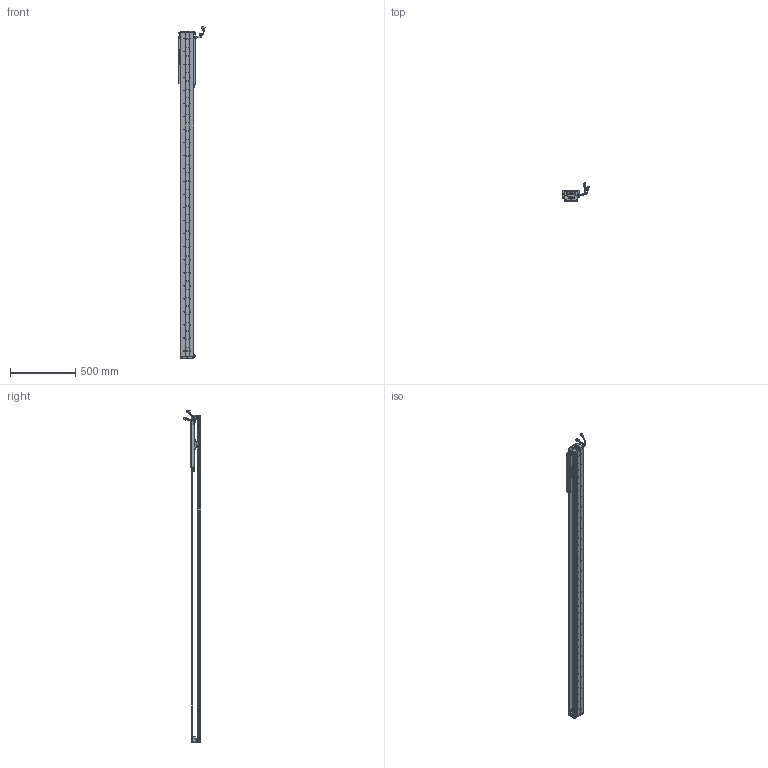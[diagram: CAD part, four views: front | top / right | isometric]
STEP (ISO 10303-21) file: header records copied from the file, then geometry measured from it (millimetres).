
FILE_DESCRIPTION (( 'STEP AP203' ), '1' );
FILE_NAME ('Z5-RY100D-1-L500-B-K.SLDASM_2050.step', '2021-05-17T03:34:26', ( '盈信电脑' ), ( '东莞市道滘镇水果街19号' ), 'SwSTEP 2.0', 'SolidWorks 2016', '' );
FILE_SCHEMA (( 'CONFIG_CONTROL_DESIGN' ));
Length unit declared in the file: millimetre
Products named in the file (36): 140蚥薯蝶輸; 100-Z-臏賑輸盄裔(21遴); LABEL-Part-1; LABEL; Z5-RY100-L500詩湍90mm遵_2050; HARNESS-Part-1; PBU_SHEET; SCALE; SCREW-M1.6-1; SCALE-Part-1; SHIELDPLATE; HOLDER0; 140雄赽晤鎢ん堤盄; Z5-RY100铝滑块（21款）; SEAL; 覜茼ん672; 榋妏寠巭燃_暯_M2_2; SCREW-M1.7; SCREW-M1.6; SCREW-M1.6-2; Z-RY100D詩湍狟揤裔; COVER-Part-1; HARNESS; Z-100詩湍傷裔啣; 080黍杅芛假蚾釱21遴; PSLH080_PSLF2; SEAL-Part-1; Z5-RY100D-500-倰第菁釱_2050; Z-RY100D覜茼んえ; Z5-RY100D-1-L500-B-K.SLDASM_2050; COVER; Z-RY100D詩湍奻揤裔; HARNESS-Part-2; SCALE-Part-2; SCREW-M1.6-3; SCREW-M1.7-1
Assembly tree (43 placements, depth 4):
  Z5-RY100D-1-L500-B-K.SLDASM_2050
    Z5-RY100D-500-倰第菁釱_2050
    Z5-RY100铝滑块（21款）
    PSLH080_PSLF2
      SCALE
        SCALE-Part-1
        SCALE-Part-2
      HARNESS
        HARNESS-Part-1
        HARNESS-Part-2
      LABEL
        LABEL-Part-1
      COVER
        COVER-Part-1
      SEAL
        SEAL-Part-1
      榋妏寠巭燃_暯_M2_2
      SHIELDPLATE
      SCREW-M1.7
      SCREW-M1.7-1
      PBU_SHEET
      SCREW-M1.6
      SCREW-M1.6-1
      SCREW-M1.6-2
      SCREW-M1.6-3
      HOLDER0
    080黍杅芛假蚾釱21遴
    Z-100詩湍傷裔啣  x2
    140蚥薯蝶輸  x2
    覜茼ん672  x3
    Z-RY100D覜茼んえ  x3
    100-Z-臏賑輸盄裔(21遴)
    140雄赽晤鎢ん堤盄
    Z5-RY100-L500詩湍90mm遵_2050
    Z-RY100D詩湍狟揤裔  x2
    Z-RY100D詩湍奻揤裔  x2
Bounding box: 205.84 x 136.11 x 2550.43 mm (x, y, z)
Volume: 4909434.8 mm3; surface area: 1895998.9 mm2
Topology: 38 solids, 38 shells, 2983 faces, 8113 edges, 5176 vertices
Faces by surface type: cylinder 1454, plane 1181, cone 226, torus 69, bspline 53
Entity records: 85967 total; most frequent: CARTESIAN_POINT 17999, DIRECTION 13855, ORIENTED_EDGE 13106, EDGE_CURVE 6553, AXIS2_PLACEMENT_3D 5204, VERTEX_POINT 4244, VECTOR 3447, LINE 3447
